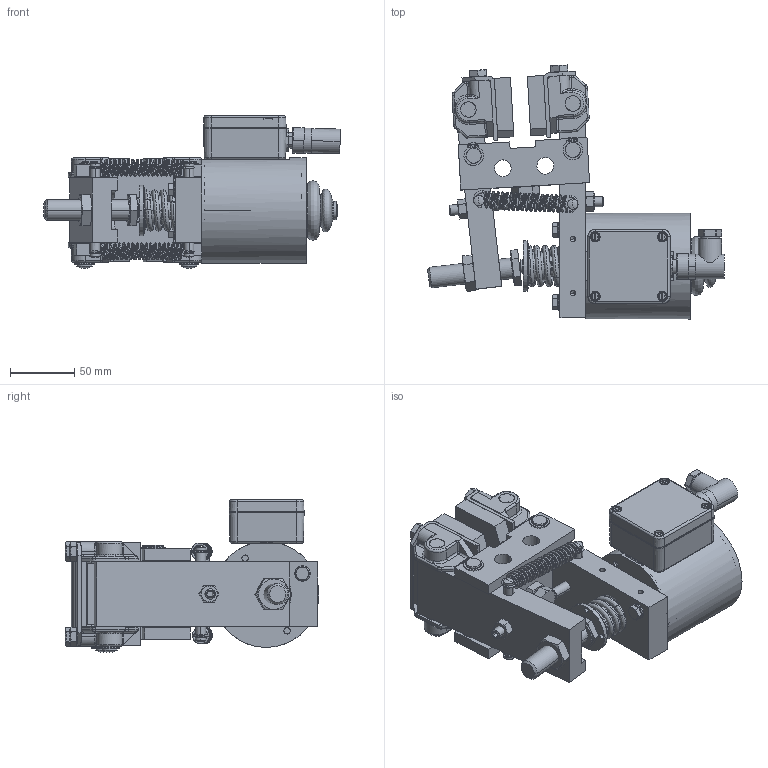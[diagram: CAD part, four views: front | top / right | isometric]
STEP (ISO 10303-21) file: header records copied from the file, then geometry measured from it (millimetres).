
FILE_DESCRIPTION((''),'2;1');
FILE_NAME('DH_012_FEM-4X0L-12_ASM','2019-09-18T',('BOLS'),(''),'CREO PARAMETRIC BY PTC INC, 2017020','CREO PARAMETRIC BY PTC INC, 2017020','');
FILE_SCHEMA(('CONFIG_CONTROL_DESIGN'));
Products named in the file (58): 2475_100_001_000000_1; 2738_150_001_000000_1; 2738_177_001_000000_AF1_1; 5371_020_001_000000_1; 2476_081_001_A00001_1; 5184_008_010_000000_1; 2476_081_001_000000_ASM_1_ASM; 2472_005_013_HALTER_1; 2472_005_013_REIBEL_1; 2472_005_013_A00112_ASM_1_ASM; 5019_008_003_000000_1; 5124_021_001_000810_1; 2472_005_013_Z00112_ASM_1_ASM; 5204_012_119_000000_1; 5107_012_001_000000_1; 2711_012_625_000000_1; 3514_014_011_E20000_AF1_1; 3514_014_011_E51000_AF1_1; 3514_014_011_E52000_AF1_1; 3514_014_011_E30000_AF1_1; 3514_014_011_1010DP_AF1_1; 3514_014_011_E10000_AF1_1; 3514_014_011_E40000_AF1_1; 3514_014_021_FABAL1_AF1_1; 3514_014_011_4020DP_AF1_1; 3514_014_021_E71000_AF2_1; 3514_014_021_E72000_1; 3514_014_021_E73000_1; 3514_014_021_E70000_AF2_ASM_1_ASM; 5005_005_216_000000_AF2_1; 5005_005_216_000000_AF3_1; 3514_014_011_000000_AF1_ASM_1_ASM; 2791_042_104_000000_1; 5114_025_005_000000_1; 2722_026_601_00TEST_1; 5128_016_002_000000_1; 5236_008_003_000000_1; 5105_006_201_R00000_1; 5011_008_204_000000_1; 5101_008_301_000000_1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
Assembly tree (85 placements, depth 5):
  DH_012_FEM-4X0L-12_ASM
    4457_120_517_000000_ASM_1_ASM
      2475_100_001_000000_1
      2738_150_001_000000_1
      2738_177_001_000000_AF1_1
      5371_020_001_000000_1  x4
      2472_005_013_Z00112_ASM_1_ASM  x2
        2476_081_001_000000_ASM_1_ASM
          2476_081_001_A00001_1
          5184_008_010_000000_1  x2
        2472_005_013_A00112_ASM_1_ASM
          2472_005_013_HALTER_1
          2472_005_013_REIBEL_1
        5019_008_003_000000_1
        5124_021_001_000810_1
      5204_012_119_000000_1  x2
      5107_012_001_000000_1  x4
      2711_012_625_000000_1  x2
      3514_014_011_000000_AF1_ASM_1_ASM
        3514_014_011_E20000_AF1_1
        3514_014_011_E51000_AF1_1
        3514_014_011_E52000_AF1_1
        3514_014_011_E30000_AF1_1
        3514_014_011_1010DP_AF1_1
        3514_014_011_E10000_AF1_1
        3514_014_011_E40000_AF1_1
        3514_014_021_FABAL1_AF1_1
        3514_014_011_4020DP_AF1_1
        3514_014_021_E70000_AF2_ASM_1_ASM
          3514_014_021_E71000_AF2_1
          3514_014_021_E72000_1
          3514_014_021_E73000_1  x4
        5005_005_216_000000_AF2_1
        5005_005_216_000000_AF3_1
      2791_042_104_000000_1
      5114_025_005_000000_1  x2
      2722_026_601_00TEST_1
      5128_016_002_000000_1
      5236_008_003_000000_1  x4
      5105_006_201_R00000_1  x2
      5011_008_204_000000_1  x2
      5101_008_301_000000_1  x2
      5102_012_001_000810_1
      5019_000_012_035502_1
      5019_006_108_000000_AF2_1
      5019_006_108_000000_AF3_1
      5139_016_103_000000_1
      2701_005_045_000000_AF1_1
      3514_014_021_E70000_AF3_ASM_1_ASM
        3514_014_021_E71000_AF3_1
        3514_014_021_E72000_1
        3514_014_021_E73000_1  x4
      SKINDICHT_SM-M_16X1_5_ART_NR_52
      D7991_M5X8D7991_M5X6_AF0_1
      D7991_M5X8D7991_M5X6_AF1_1
      5003_004_001_000000_1  x2
      2701_012_015_000000_AF2_1_ASM
      2701_012_015_000000_AF3_1
    FLANSCHSTECKER_LITZEN
    WINKELDOSE_4POL
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Bounding box: 230.03 x 196.88 x 118.31 mm (x, y, z)
Volume: 862468.3 mm3; surface area: 386722.1 mm2
Topology: 81 solids, 81 shells, 2406 faces, 6028 edges, 3859 vertices
Faces by surface type: plane 977, cylinder 763, cone 412, torus 144, bspline 66, sphere 38, revolution 6
Entity records: 67276 total; most frequent: CARTESIAN_POINT 17047, DIRECTION 8338, ORIENTED_EDGE 7442, PRESENTATION_STYLE_ASSIGNMENT 3811, STYLED_ITEM 3789, CURVE_STYLE 3727, EDGE_CURVE 3721, AXIS2_PLACEMENT_3D 3295
